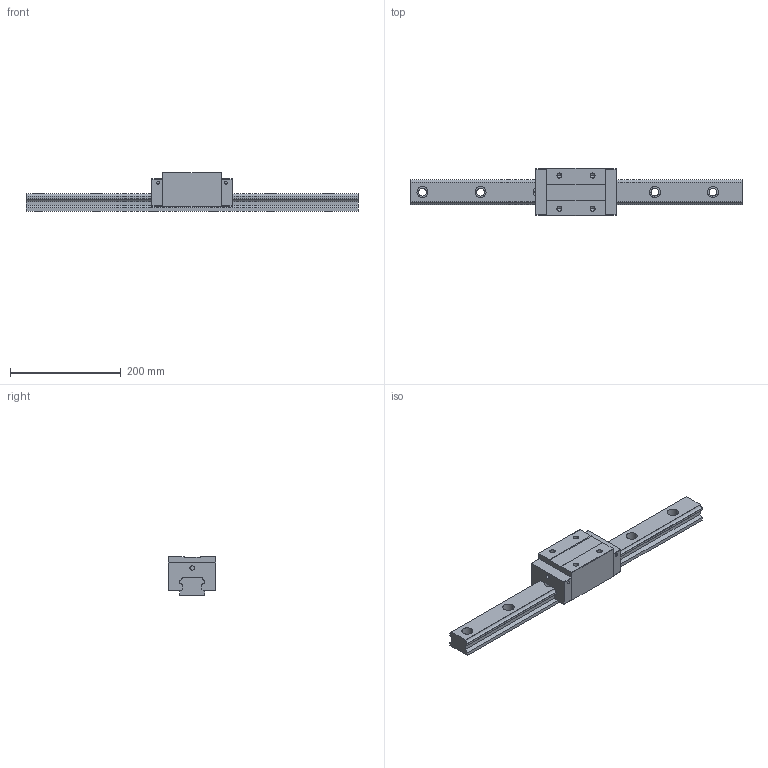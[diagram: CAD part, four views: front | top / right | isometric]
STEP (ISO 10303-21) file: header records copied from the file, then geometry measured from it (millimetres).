
FILE_DESCRIPTION (( 'STEP AP203' ), '1' );
FILE_NAME ('TRH45VL-SU.STEP', '2024-06-26T05:42:38', ( '' ), ( '' ), 'SwSTEP 2.0', 'SolidWorks 2022', '' );
FILE_SCHEMA (( 'CONFIG_CONTROL_DESIGN' ));
Length unit declared in the file: millimetre
Products named in the file (1): TRH45VL-SU
Bounding box: 600 x 85.5 x 70 mm (x, y, z)
Volume: 1293990.2 mm3; surface area: 167266.7 mm2
Topology: 2 solids, 2 shells, 180 faces, 472 edges, 304 vertices
Faces by surface type: plane 84, cylinder 80, cone 16
Entity records: 5607 total; most frequent: DIRECTION 994, CARTESIAN_POINT 949, ORIENTED_EDGE 928, EDGE_CURVE 464, AXIS2_PLACEMENT_3D 349, VERTEX_POINT 304, VECTOR 296, LINE 296
